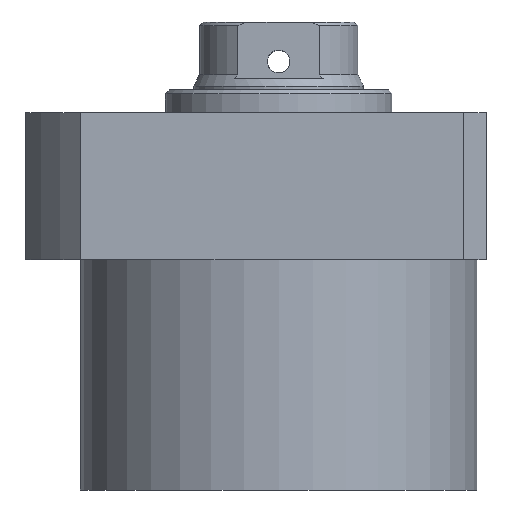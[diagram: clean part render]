
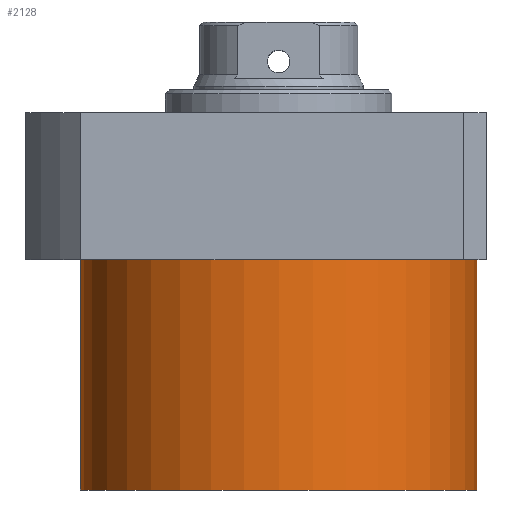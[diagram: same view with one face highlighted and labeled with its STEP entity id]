
A CAD part, front view. The second image highlights one B-rep face of the part: STEP entity #2128.
In plain terms, the highlighted cylindrical face has radius 52.5 mm (diameter 105 mm), a partial arc.
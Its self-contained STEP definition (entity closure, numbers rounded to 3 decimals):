
#72 = EDGE_CURVE ( 'NONE', #1645, #2121, #2134, .T. ) ;
#76 = CYLINDRICAL_SURFACE ( 'NONE', #454, 52.5 ) ;
#103 = CIRCLE ( 'NONE', #291, 52.5 ) ;
#109 = DIRECTION ( 'NONE',  ( 0., 0., 1. ) ) ;
#150 = VECTOR ( 'NONE', #1550, 1000. ) ;
#279 = DIRECTION ( 'NONE',  ( 1., 0., 0. ) ) ;
#283 = AXIS2_PLACEMENT_3D ( 'NONE', #616, #1655, #1982 ) ;
#291 = AXIS2_PLACEMENT_3D ( 'NONE', #1615, #910, #1106 ) ;
#307 = CARTESIAN_POINT ( 'NONE',  ( 52.5, 0., -80.5 ) ) ;
#373 = LINE ( 'NONE', #1281, #1482 ) ;
#378 = CARTESIAN_POINT ( 'NONE',  ( 52.5, 0., -80.5 ) ) ;
#397 = EDGE_LOOP ( 'NONE', ( #1922, #1738, #1635, #1175 ) ) ;
#454 = AXIS2_PLACEMENT_3D ( 'NONE', #2119, #1613, #279 ) ;
#497 = EDGE_CURVE ( 'NONE', #1013, #2121, #373, .T. ) ;
#578 = LINE ( 'NONE', #378, #150 ) ;
#616 = CARTESIAN_POINT ( 'NONE',  ( 0., 0., -19.5 ) ) ;
#768 = CARTESIAN_POINT ( 'NONE',  ( -52.5, 0., -80.5 ) ) ;
#910 = DIRECTION ( 'NONE',  ( 0., 0., -1. ) ) ;
#1013 = VERTEX_POINT ( 'NONE', #768 ) ;
#1052 = CARTESIAN_POINT ( 'NONE',  ( 52.5, 0., -19.5 ) ) ;
#1106 = DIRECTION ( 'NONE',  ( -1., 0., 0. ) ) ;
#1175 = ORIENTED_EDGE ( 'NONE', *, *, #72, .T. ) ;
#1240 = EDGE_CURVE ( 'NONE', #1867, #1645, #578, .T. ) ;
#1281 = CARTESIAN_POINT ( 'NONE',  ( -52.5, 0., -80.5 ) ) ;
#1482 = VECTOR ( 'NONE', #109, 1000. ) ;
#1550 = DIRECTION ( 'NONE',  ( 0., 0., 1. ) ) ;
#1613 = DIRECTION ( 'NONE',  ( 0., 0., 1. ) ) ;
#1615 = CARTESIAN_POINT ( 'NONE',  ( 0., 0., -80.5 ) ) ;
#1635 = ORIENTED_EDGE ( 'NONE', *, *, #1240, .T. ) ;
#1645 = VERTEX_POINT ( 'NONE', #1052 ) ;
#1655 = DIRECTION ( 'NONE',  ( 0., 0., -1. ) ) ;
#1711 = EDGE_CURVE ( 'NONE', #1867, #1013, #103, .T. ) ;
#1738 = ORIENTED_EDGE ( 'NONE', *, *, #1711, .F. ) ;
#1867 = VERTEX_POINT ( 'NONE', #307 ) ;
#1922 = ORIENTED_EDGE ( 'NONE', *, *, #497, .F. ) ;
#1948 = FACE_OUTER_BOUND ( 'NONE', #397, .T. ) ;
#1957 = CARTESIAN_POINT ( 'NONE',  ( -52.5, 0., -19.5 ) ) ;
#1982 = DIRECTION ( 'NONE',  ( 1., 0., 0. ) ) ;
#2119 = CARTESIAN_POINT ( 'NONE',  ( 0., 0., -80.5 ) ) ;
#2121 = VERTEX_POINT ( 'NONE', #1957 ) ;
#2128 = ADVANCED_FACE ( 'NONE', ( #1948 ), #76, .T. ) ;
#2134 = CIRCLE ( 'NONE', #283, 52.5 ) ;
